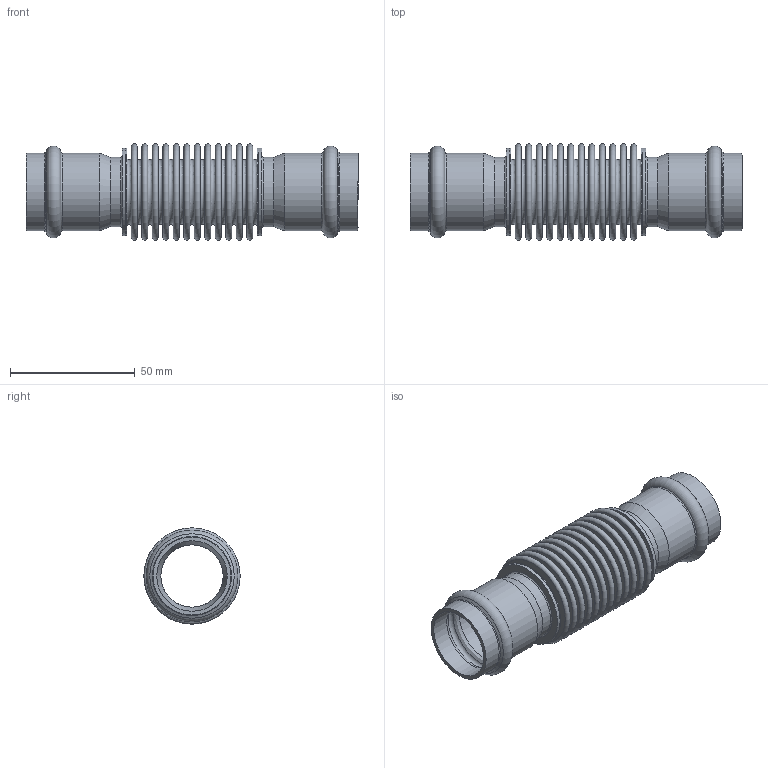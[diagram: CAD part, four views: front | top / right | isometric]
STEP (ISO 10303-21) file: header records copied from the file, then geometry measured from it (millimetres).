
FILE_DESCRIPTION((''),'2;1');
FILE_NAME('G:\Nirosan-Schmiedefeld\Technics\CAD\001 Serie 9.000\028\69872L28H(0).stp','2018-09-11T15:33:59',('herberg'),(''),'Autodesk Inventor 2009','Autodesk Inventor 2009','');
FILE_SCHEMA(('AUTOMOTIVE_DESIGN { 1 0 10303 214 1 1 1 1 }'));
Length unit declared in the file: millimetre
Products named in the file (3): 69872L28H(0); 69HMB28p(1); 69488L28P(0)
Assembly tree (3 placements, depth 2):
  69872L28H(0)
    69HMB28p(1)  x2
    69488L28P(0)
Bounding box: 133 x 38.6 x 38.6 mm (x, y, z)
Volume: 18706.8 mm3; surface area: 56432.9 mm2
Topology: 3 solids, 3 shells, 148 faces, 244 edges, 154 vertices
Faces by surface type: plane 58, bspline 38, torus 28, cylinder 16, cone 8
Full cylindrical faces by diameter (mm): 25 x2, 28 x2, 28.2 x4, 31.2 x4, 35 x4
Entity records: 4845 total; most frequent: CARTESIAN_POINT 2728, DIRECTION 452, ORIENTED_EDGE 252, EDGE_LOOP 252, AXIS2_PLACEMENT_3D 226, VERTEX_POINT 126, CIRCLE 126, EDGE_CURVE 126
